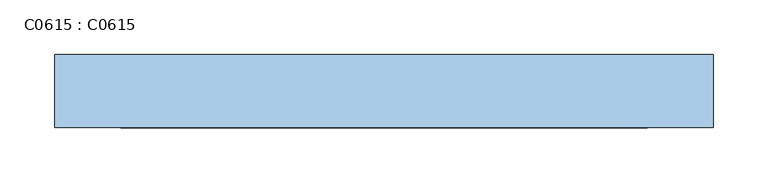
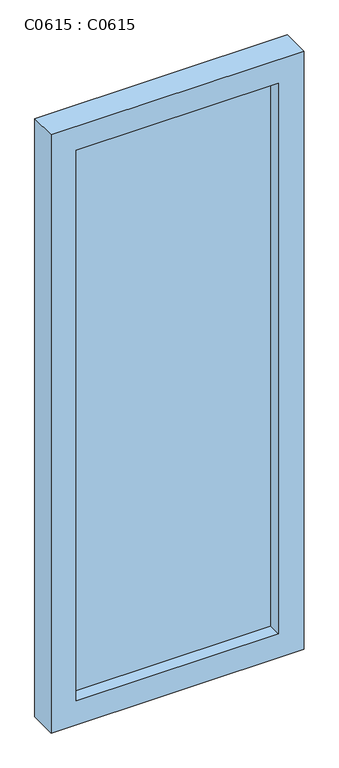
"""IFC4 building model written with IfcOpenShell, lengths in millimetres: window geometry, C0615 : C0615."""

from ifc_helpers import new_model, si_unit, frame, origin, place, context, project, spatial, polyline, outline, extrude, source, transform, mapped, element, save


def c0615_c0615_013a5557(model_context):
    return source(origin(), model_context, "Body", "SweptSolid", [
        extrude(outline(polyline([(240.0, -1.3674018), (-240.0, -1.3674018), (-240.0, 26.348844), (240.0, 26.348844), (240.0, -1.3674018)])), frame((0.0, 0.0, 1510.0), z_axis=(0.0, 0.0, 1.0), x_axis=(1.0, 0.0, 0.0)), (0.0, 0.0, 1.0), 1380.0),
        extrude(outline(polyline([(2950.0, 300.0), (2950.0, -300.0), (1450.0, -300.0), (1450.0, 300.0), (2950.0, 300.0)]), holes=[polyline([(1510.0, 240.0), (1510.0, -240.0), (2890.0, -240.0), (2890.0, 240.0), (1510.0, 240.0)])]), frame((0.0, -33.3333333, 0.0), z_axis=(0.0, 1.0, 0.0), x_axis=(0.0, 0.0, 1.0)), (0.0, 0.0, 1.0), 66.6666667),
    ])


if __name__ == "__main__":
    model = new_model("IFC4")
    model_context = context("Model", 3, world=origin())
    ifc_project = project(units=[si_unit("LENGTHUNIT", "METRE", prefix="MILLI")], contexts=[model_context])
    site = spatial("IfcSite", under=ifc_project)
    building = spatial("IfcBuilding", under=site)
    placement = place(None, origin())
    c0615_c0615_shape = c0615_c0615_013a5557(model_context)
    element("IfcWindow", 1, ObjectType="C0615 : C0615", at=placement, inside=building, context=model_context, shape_type="MappedRepresentation", body=[
        mapped(c0615_c0615_shape, transform((0.0, 0.0, 0.0), x_axis=(1.0, 0.0, 0.0), y_axis=(0.0, 1.0, 0.0), z_axis=(0.0, 0.0, 1.0))),
    ])
    save(model, "model.ifc")
